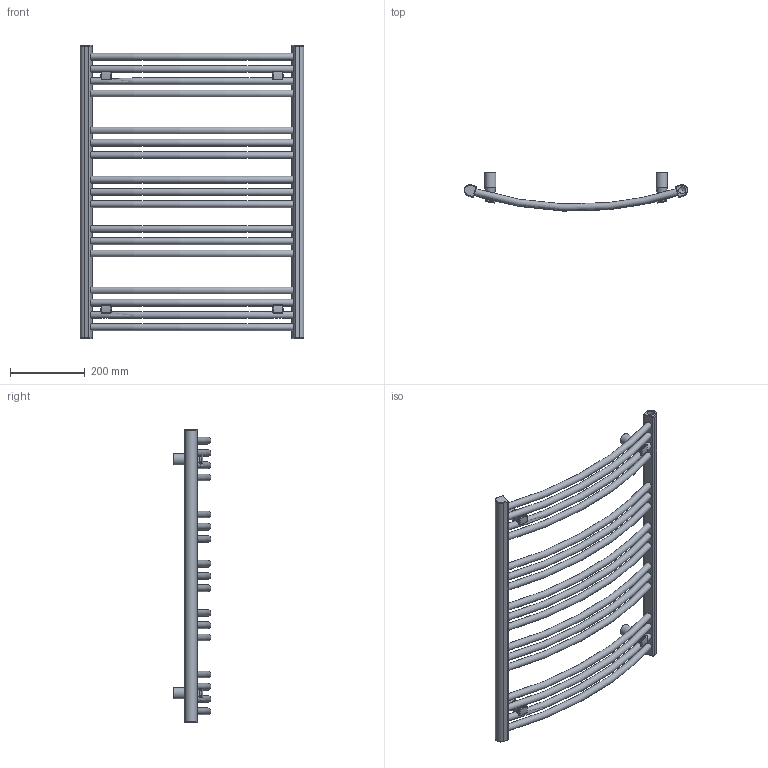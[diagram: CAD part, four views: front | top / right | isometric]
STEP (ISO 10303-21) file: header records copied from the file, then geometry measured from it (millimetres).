
FILE_DESCRIPTION((''),'2;1');
FILE_NAME('Z:\R\G\P\RGPH14 - Grzejnik Domi\Work\Inventor\Marketing\STEP\DO-78-60 SX.stp','2012-07-23T17:10:20',('PioRo'),(''),'Autodesk Inventor 2012','Autodesk Inventor 2012','');
FILE_SCHEMA(('AUTOMOTIVE_DESIGN { 1 0 10303 214 1 1 1 1 }'));
Length unit declared in the file: millimetre
Products named in the file (1): DO-78-60 SX
Bounding box: 599.97 x 101.38 x 786 mm (x, y, z)
Volume: 3796644.9 mm3; surface area: 724927.5 mm2
Topology: 1 solids, 5 shells, 215 faces, 506 edges, 319 vertices
Faces by surface type: cylinder 85, plane 70, torus 33, bspline 20, cone 7
Full cylindrical faces by diameter (mm): 5 x8, 9 x4, 18.631 x3, 21.8 x4, 30 x4
Entity records: 6946 total; most frequent: CARTESIAN_POINT 1948, DIRECTION 996, ORIENTED_EDGE 888, EDGE_CURVE 444, AXIS2_PLACEMENT_3D 424, EDGE_LOOP 328, VERTEX_POINT 304, FACE_OUTER_BOUND 215
